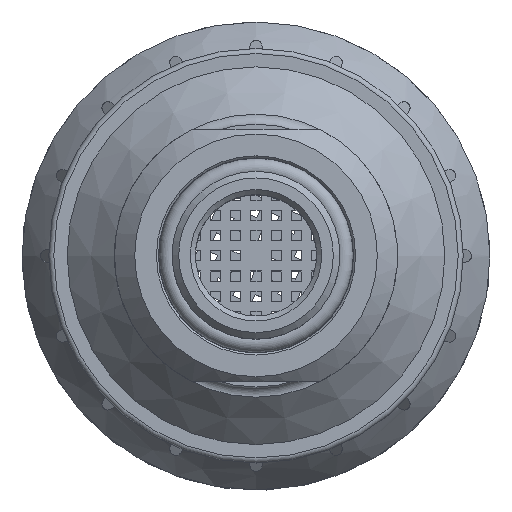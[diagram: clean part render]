
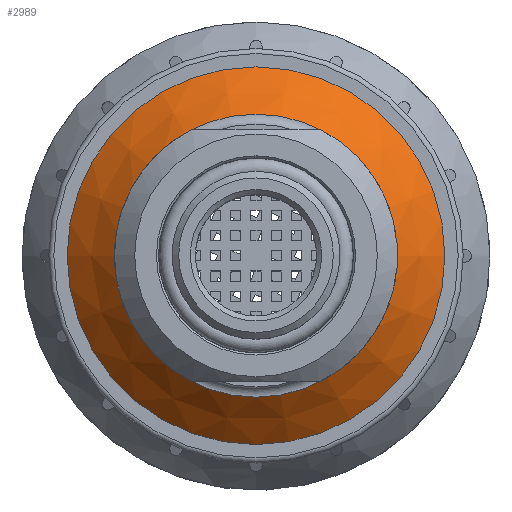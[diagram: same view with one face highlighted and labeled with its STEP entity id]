
A CAD part, top view. The second image highlights one B-rep face of the part: STEP entity #2989.
In plain terms, the highlighted conical face has half-angle 45.485 degrees and reference radius 18.678 mm.
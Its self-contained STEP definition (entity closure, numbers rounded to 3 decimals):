
#2989 = ADVANCED_FACE( '', ( #6464, #6465 ), #6466, .T. );
#6464 = FACE_BOUND( '', #8903, .T. );
#6465 = FACE_OUTER_BOUND( '', #8904, .T. );
#6466 = CONICAL_SURFACE( '', #8905, 18.679, 0.794 );
#8903 = EDGE_LOOP( '', ( #12194 ) );
#8904 = EDGE_LOOP( '', ( #12195 ) );
#8905 = AXIS2_PLACEMENT_3D( '', #12196, #12197, #12198 );
#12194 = ORIENTED_EDGE( '', *, *, #21134, .T. );
#12195 = ORIENTED_EDGE( '', *, *, #21133, .F. );
#12196 = CARTESIAN_POINT( '', ( 0., 0., 5.928 ) );
#12197 = DIRECTION( '', ( 0., 0., -1. ) );
#12198 = DIRECTION( '', ( -1., 0., 0. ) );
#21133 = EDGE_CURVE( '', #23573, #23573, #23574, .T. );
#21134 = EDGE_CURVE( '', #23575, #23575, #23576, .T. );
#23573 = VERTEX_POINT( '', #27112 );
#23574 = CIRCLE( '', #27113, 18.679 );
#23575 = VERTEX_POINT( '', #27114 );
#23576 = CIRCLE( '', #27115, 14. );
#27112 = CARTESIAN_POINT( '', ( -18.679, 0., 5.928 ) );
#27113 = AXIS2_PLACEMENT_3D( '', #31214, #31215, #31216 );
#27114 = CARTESIAN_POINT( '', ( -14., 0., 10.528 ) );
#27115 = AXIS2_PLACEMENT_3D( '', #31217, #31218, #31219 );
#31214 = CARTESIAN_POINT( '', ( 0., 0., 5.928 ) );
#31215 = DIRECTION( '', ( 0., 0., -1. ) );
#31216 = DIRECTION( '', ( -1., 0., 0. ) );
#31217 = CARTESIAN_POINT( '', ( 0., 0., 10.528 ) );
#31218 = DIRECTION( '', ( 0., 0., -1. ) );
#31219 = DIRECTION( '', ( -1., 0., 0. ) );
